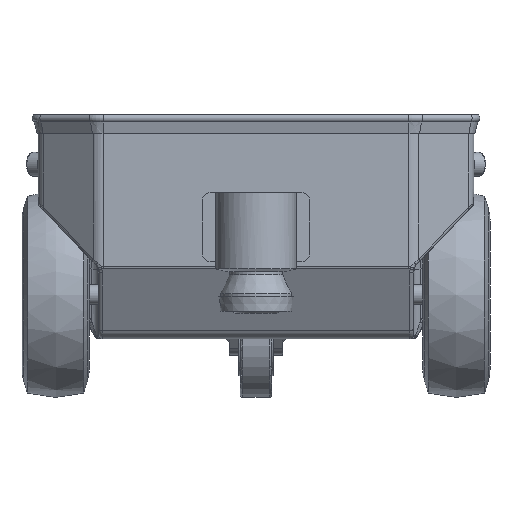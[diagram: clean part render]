
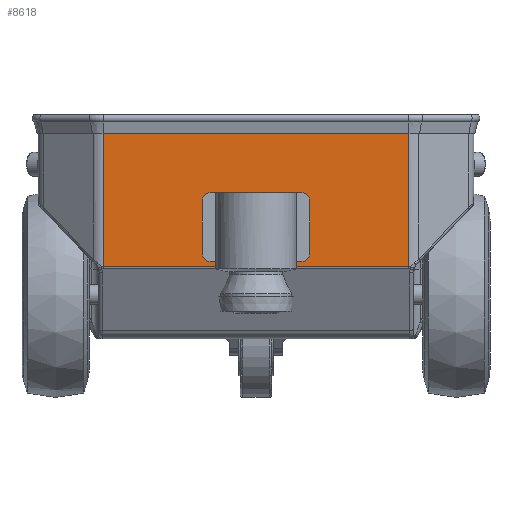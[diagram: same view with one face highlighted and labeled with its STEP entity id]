
A CAD part, front view. The second image highlights one B-rep face of the part: STEP entity #8618.
In plain terms, the highlighted planar face has unit normal (0, -1, 0).
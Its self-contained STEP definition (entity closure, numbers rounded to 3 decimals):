
#540=CIRCLE('',#9367,10.);
#541=CIRCLE('',#9368,10.);
#542=CIRCLE('',#9369,10.);
#543=CIRCLE('',#9370,10.);
#786=FACE_BOUND('',#1919,.T.);
#1302=FACE_OUTER_BOUND('',#1918,.T.);
#1918=EDGE_LOOP('',(#6869,#6870,#6871,#6872));
#1919=EDGE_LOOP('',(#6873,#6874,#6875,#6876,#6877,#6878,#6879,#6880));
#2623=LINE('',#13894,#3267);
#2680=LINE('',#14108,#3324);
#2681=LINE('',#14119,#3325);
#2682=LINE('',#14120,#3326);
#2683=LINE('',#14123,#3327);
#2684=LINE('',#14127,#3328);
#2685=LINE('',#14131,#3329);
#2686=LINE('',#14135,#3330);
#3267=VECTOR('',#11066,10.);
#3324=VECTOR('',#11307,10.);
#3325=VECTOR('',#11314,10.);
#3326=VECTOR('',#11315,10.);
#3327=VECTOR('',#11316,10.);
#3328=VECTOR('',#11319,10.);
#3329=VECTOR('',#11322,10.);
#3330=VECTOR('',#11325,10.);
#3937=VERTEX_POINT('',#13891);
#3938=VERTEX_POINT('',#13893);
#3997=VERTEX_POINT('',#14107);
#4000=VERTEX_POINT('',#14118);
#4001=VERTEX_POINT('',#14121);
#4002=VERTEX_POINT('',#14122);
#4003=VERTEX_POINT('',#14124);
#4004=VERTEX_POINT('',#14126);
#4005=VERTEX_POINT('',#14128);
#4006=VERTEX_POINT('',#14130);
#4007=VERTEX_POINT('',#14132);
#4008=VERTEX_POINT('',#14134);
#4896=EDGE_CURVE('',#3938,#3937,#2623,.T.);
#5000=EDGE_CURVE('',#3997,#3938,#2680,.T.);
#5004=EDGE_CURVE('',#4000,#3937,#2681,.T.);
#5005=EDGE_CURVE('',#3997,#4000,#2682,.T.);
#5006=EDGE_CURVE('',#4001,#4002,#2683,.T.);
#5007=EDGE_CURVE('',#4002,#4003,#540,.T.);
#5008=EDGE_CURVE('',#4003,#4004,#2684,.T.);
#5009=EDGE_CURVE('',#4004,#4005,#541,.T.);
#5010=EDGE_CURVE('',#4005,#4006,#2685,.T.);
#5011=EDGE_CURVE('',#4006,#4007,#542,.T.);
#5012=EDGE_CURVE('',#4007,#4008,#2686,.T.);
#5013=EDGE_CURVE('',#4008,#4001,#543,.T.);
#6869=ORIENTED_EDGE('',*,*,#4896,.T.);
#6870=ORIENTED_EDGE('',*,*,#5004,.F.);
#6871=ORIENTED_EDGE('',*,*,#5005,.F.);
#6872=ORIENTED_EDGE('',*,*,#5000,.T.);
#6873=ORIENTED_EDGE('',*,*,#5006,.T.);
#6874=ORIENTED_EDGE('',*,*,#5007,.T.);
#6875=ORIENTED_EDGE('',*,*,#5008,.T.);
#6876=ORIENTED_EDGE('',*,*,#5009,.T.);
#6877=ORIENTED_EDGE('',*,*,#5010,.T.);
#6878=ORIENTED_EDGE('',*,*,#5011,.T.);
#6879=ORIENTED_EDGE('',*,*,#5012,.T.);
#6880=ORIENTED_EDGE('',*,*,#5013,.T.);
#7902=PLANE('',#9366);
#8618=ADVANCED_FACE('',(#1302,#786),#7902,.T.);
#9366=AXIS2_PLACEMENT_3D('',#14117,#11312,#11313);
#9367=AXIS2_PLACEMENT_3D('',#14125,#11317,#11318);
#9368=AXIS2_PLACEMENT_3D('',#14129,#11320,#11321);
#9369=AXIS2_PLACEMENT_3D('',#14133,#11323,#11324);
#9370=AXIS2_PLACEMENT_3D('',#14136,#11326,#11327);
#11066=DIRECTION('',(-1.,0.,0.));
#11307=DIRECTION('',(0.,0.,1.));
#11312=DIRECTION('center_axis',(0.,-1.,0.));
#11313=DIRECTION('ref_axis',(0.,0.,-1.));
#11314=DIRECTION('',(0.,0.,1.));
#11315=DIRECTION('',(-1.,0.,0.));
#11316=DIRECTION('',(1.,0.,0.));
#11317=DIRECTION('center_axis',(0.,1.,0.));
#11318=DIRECTION('ref_axis',(1.,0.,0.));
#11319=DIRECTION('',(0.,0.,-1.));
#11320=DIRECTION('center_axis',(0.,1.,0.));
#11321=DIRECTION('ref_axis',(0.,0.,-1.));
#11322=DIRECTION('',(-1.,0.,0.));
#11323=DIRECTION('center_axis',(0.,1.,0.));
#11324=DIRECTION('ref_axis',(-1.,0.,0.));
#11325=DIRECTION('',(0.,0.,1.));
#11326=DIRECTION('center_axis',(0.,1.,0.));
#11327=DIRECTION('ref_axis',(0.,0.,1.));
#13891=CARTESIAN_POINT('',(-193.14,-183.,333.9));
#13893=CARTESIAN_POINT('',(193.14,-183.,333.9));
#13894=CARTESIAN_POINT('',(32.853,-183.,333.9));
#14107=CARTESIAN_POINT('',(193.14,-183.,165.496));
#14108=CARTESIAN_POINT('',(193.14,-183.,346.5));
#14117=CARTESIAN_POINT('Origin',(0.,-183.,164.));
#14118=CARTESIAN_POINT('',(-193.14,-183.,165.496));
#14119=CARTESIAN_POINT('',(-193.14,-183.,346.5));
#14120=CARTESIAN_POINT('',(0.,-183.,165.496));
#14121=CARTESIAN_POINT('',(-58.,-183.,259.));
#14122=CARTESIAN_POINT('',(58.,-183.,259.));
#14123=CARTESIAN_POINT('',(-29.,-183.,259.));
#14124=CARTESIAN_POINT('',(68.,-183.,249.));
#14125=CARTESIAN_POINT('Origin',(58.,-183.,249.));
#14126=CARTESIAN_POINT('',(68.,-183.,182.));
#14127=CARTESIAN_POINT('',(68.,-183.,206.5));
#14128=CARTESIAN_POINT('',(58.,-183.,172.));
#14129=CARTESIAN_POINT('Origin',(58.,-183.,182.));
#14130=CARTESIAN_POINT('',(-58.,-183.,172.));
#14131=CARTESIAN_POINT('',(29.,-183.,172.));
#14132=CARTESIAN_POINT('',(-68.,-183.,182.));
#14133=CARTESIAN_POINT('Origin',(-58.,-183.,182.));
#14134=CARTESIAN_POINT('',(-68.,-183.,249.));
#14135=CARTESIAN_POINT('',(-68.,-183.,173.));
#14136=CARTESIAN_POINT('Origin',(-58.,-183.,249.));
